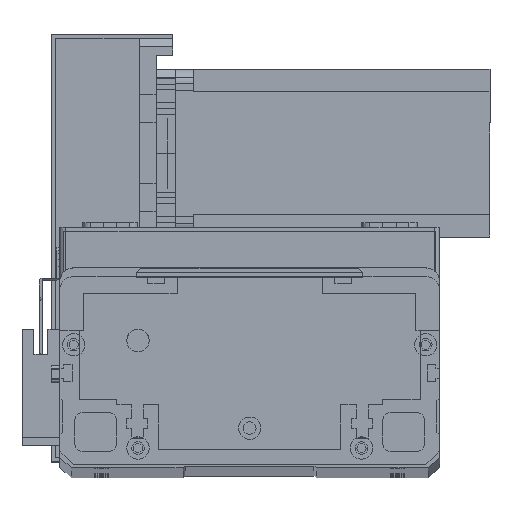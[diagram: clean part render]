
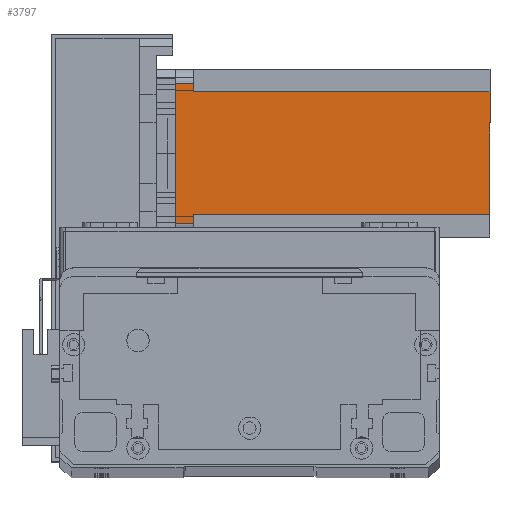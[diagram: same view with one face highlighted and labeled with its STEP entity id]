
A CAD part, top view. The second image highlights one B-rep face of the part: STEP entity #3797.
In plain terms, the highlighted planar face has unit normal (0, 0, 1) as drawn and (0, -1, 0) by its records, which use the part's own axes.
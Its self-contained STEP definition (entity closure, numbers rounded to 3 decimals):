
#1947 = EDGE_CURVE ( 'NONE', #4798, #17599, #15911, .T. ) ;
#1956 = VECTOR ( 'NONE', #2106, 1000. ) ;
#2106 = DIRECTION ( 'NONE',  ( 1., 0., 0. ) ) ;
#2770 = ORIENTED_EDGE ( 'NONE', *, *, #11246, .T. ) ;
#2811 = LINE ( 'NONE', #23413, #28373 ) ;
#3397 = CARTESIAN_POINT ( 'NONE',  ( 8., 0., -112.5 ) ) ;
#3797 = ADVANCED_FACE ( 'NONE', ( #22714 ), #19557, .T. ) ;
#3846 = VERTEX_POINT ( 'NONE', #12162 ) ;
#4109 = ORIENTED_EDGE ( 'NONE', *, *, #15323, .F. ) ;
#4124 = LINE ( 'NONE', #14452, #15842 ) ;
#4153 = EDGE_CURVE ( 'NONE', #3846, #16427, #25640, .T. ) ;
#4798 = VERTEX_POINT ( 'NONE', #14839 ) ;
#4938 = LINE ( 'NONE', #22892, #28987 ) ;
#5409 = CARTESIAN_POINT ( 'NONE',  ( 55., 0., 0. ) ) ;
#5723 = CARTESIAN_POINT ( 'NONE',  ( 5., 0., -6.5 ) ) ;
#6170 = CARTESIAN_POINT ( 'NONE',  ( 8., 0., -112.5 ) ) ;
#6516 = VERTEX_POINT ( 'NONE', #5409 ) ;
#8433 = DIRECTION ( 'NONE',  ( 1., 0., 0. ) ) ;
#8846 = LINE ( 'NONE', #3397, #15710 ) ;
#9733 = VECTOR ( 'NONE', #8433, 1000. ) ;
#9964 = DIRECTION ( 'NONE',  ( -1., 0., 0. ) ) ;
#10948 = CARTESIAN_POINT ( 'NONE',  ( 8., 0., -6.5 ) ) ;
#11126 = VERTEX_POINT ( 'NONE', #6170 ) ;
#11246 = EDGE_CURVE ( 'NONE', #15897, #16427, #4938, .T. ) ;
#11276 = ORIENTED_EDGE ( 'NONE', *, *, #12253, .F. ) ;
#11687 = EDGE_LOOP ( 'NONE', ( #23933, #12687, #11276, #2770, #22724, #4109, #20932, #22036 ) ) ;
#11841 = EDGE_CURVE ( 'NONE', #11126, #14674, #14455, .T. ) ;
#11849 = DIRECTION ( 'NONE',  ( 0., 0., -1. ) ) ;
#12162 = CARTESIAN_POINT ( 'NONE',  ( 8., 0., -6.5 ) ) ;
#12253 = EDGE_CURVE ( 'NONE', #15897, #6516, #28928, .T. ) ;
#12687 = ORIENTED_EDGE ( 'NONE', *, *, #22499, .T. ) ;
#12886 = CARTESIAN_POINT ( 'NONE',  ( 52., 0., -6.5 ) ) ;
#13670 = DIRECTION ( 'NONE',  ( 0., 0., -1. ) ) ;
#13986 = VECTOR ( 'NONE', #9964, 1000. ) ;
#14452 = CARTESIAN_POINT ( 'NONE',  ( 55., 0., -112.5 ) ) ;
#14455 = LINE ( 'NONE', #23061, #1956 ) ;
#14674 = VERTEX_POINT ( 'NONE', #24411 ) ;
#14839 = CARTESIAN_POINT ( 'NONE',  ( 52., 0., -6.5 ) ) ;
#14945 = CARTESIAN_POINT ( 'NONE',  ( 5., 0., 0. ) ) ;
#15076 = DIRECTION ( 'NONE',  ( 0., 0., 1. ) ) ;
#15323 = EDGE_CURVE ( 'NONE', #11126, #3846, #8846, .T. ) ;
#15710 = VECTOR ( 'NONE', #15076, 1000. ) ;
#15842 = VECTOR ( 'NONE', #16856, 1000. ) ;
#15897 = VERTEX_POINT ( 'NONE', #14945 ) ;
#15911 = LINE ( 'NONE', #12886, #21343 ) ;
#16427 = VERTEX_POINT ( 'NONE', #5723 ) ;
#16856 = DIRECTION ( 'NONE',  ( 0., 0., 1. ) ) ;
#17599 = VERTEX_POINT ( 'NONE', #18361 ) ;
#17621 = DIRECTION ( 'NONE',  ( 1., 0., 0. ) ) ;
#18361 = CARTESIAN_POINT ( 'NONE',  ( 55., 0., -6.5 ) ) ;
#19341 = DIRECTION ( 'NONE',  ( 0., 0., -1. ) ) ;
#19453 = DIRECTION ( 'NONE',  ( 0., -1., 0. ) ) ;
#19557 = PLANE ( 'NONE',  #29338 ) ;
#20932 = ORIENTED_EDGE ( 'NONE', *, *, #11841, .T. ) ;
#21343 = VECTOR ( 'NONE', #17621, 1000. ) ;
#22036 = ORIENTED_EDGE ( 'NONE', *, *, #26609, .F. ) ;
#22315 = CARTESIAN_POINT ( 'NONE',  ( 0., 0., 0. ) ) ;
#22499 = EDGE_CURVE ( 'NONE', #17599, #6516, #4124, .T. ) ;
#22714 = FACE_OUTER_BOUND ( 'NONE', #11687, .T. ) ;
#22724 = ORIENTED_EDGE ( 'NONE', *, *, #4153, .F. ) ;
#22892 = CARTESIAN_POINT ( 'NONE',  ( 5., 0., -112.5 ) ) ;
#23061 = CARTESIAN_POINT ( 'NONE',  ( 0., 0., -112.5 ) ) ;
#23413 = CARTESIAN_POINT ( 'NONE',  ( 52., 0., -112.5 ) ) ;
#23933 = ORIENTED_EDGE ( 'NONE', *, *, #1947, .T. ) ;
#24354 = CARTESIAN_POINT ( 'NONE',  ( 0., 0., -112.5 ) ) ;
#24411 = CARTESIAN_POINT ( 'NONE',  ( 52., 0., -112.5 ) ) ;
#25640 = LINE ( 'NONE', #10948, #13986 ) ;
#26609 = EDGE_CURVE ( 'NONE', #4798, #14674, #2811, .T. ) ;
#28373 = VECTOR ( 'NONE', #11849, 1000. ) ;
#28928 = LINE ( 'NONE', #22315, #9733 ) ;
#28987 = VECTOR ( 'NONE', #13670, 1000. ) ;
#29338 = AXIS2_PLACEMENT_3D ( 'NONE', #24354, #19453, #19341 ) ;
